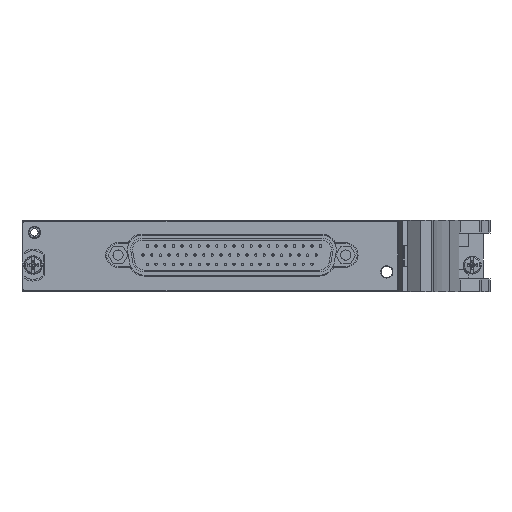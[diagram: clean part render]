
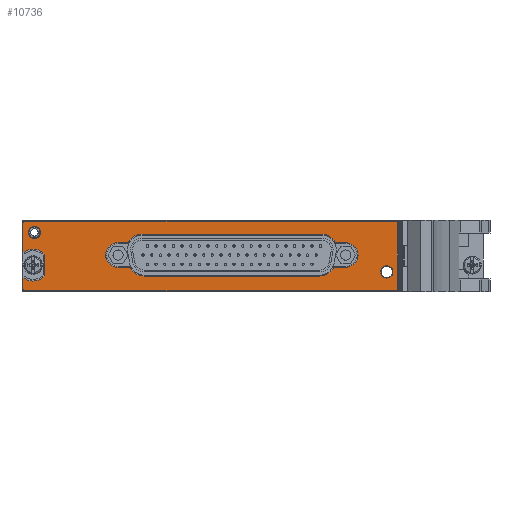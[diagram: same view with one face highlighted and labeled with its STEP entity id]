
A CAD part, left-side view. The second image highlights one B-rep face of the part: STEP entity #10736.
In plain terms, the highlighted planar face has unit normal (-1, 0, 0).
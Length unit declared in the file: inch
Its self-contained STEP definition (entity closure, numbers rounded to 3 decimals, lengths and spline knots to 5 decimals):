
#1011=CARTESIAN_POINT('',(-4.289,0.535,0.66287));
#1012=DIRECTION('',(-1.,0.,0.));
#1013=DIRECTION('',(0.,0.,1.));
#1014=AXIS2_PLACEMENT_3D('',#1011,#1012,#1013);
#1016=DIRECTION('',(0.,1.,0.));
#1017=VECTOR('',#1016,4.07);
#1018=CARTESIAN_POINT('',(-4.289,-3.535,0.68287));
#1019=LINE('',#1018,#1017);
#1020=CARTESIAN_POINT('',(-4.289,-3.535,0.66287));
#1021=DIRECTION('',(-1.,0.,0.));
#1022=DIRECTION('',(0.,-1.,0.));
#1023=AXIS2_PLACEMENT_3D('',#1020,#1021,#1022);
#1025=DIRECTION('',(0.,0.,1.));
#1026=VECTOR('',#1025,0.728);
#1027=CARTESIAN_POINT('',(-4.289,-3.555,-0.06513));
#1028=LINE('',#1027,#1026);
#1029=CARTESIAN_POINT('',(-4.289,-3.535,-0.06513));
#1030=DIRECTION('',(-1.,0.,0.));
#1031=DIRECTION('',(0.,0.,-1.));
#1032=AXIS2_PLACEMENT_3D('',#1029,#1030,#1031);
#1034=DIRECTION('',(0.,-1.,0.));
#1035=VECTOR('',#1034,4.07);
#1036=CARTESIAN_POINT('',(-4.289,0.535,-0.08513));
#1037=LINE('',#1036,#1035);
#1038=CARTESIAN_POINT('',(-4.289,0.535,-0.06513));
#1039=DIRECTION('',(-1.,0.,0.));
#1040=DIRECTION('',(0.,1.,0.));
#1041=AXIS2_PLACEMENT_3D('',#1038,#1039,#1040);
#1043=DIRECTION('',(0.,0.,-1.));
#1044=VECTOR('',#1043,0.12953);
#1045=CARTESIAN_POINT('',(-4.289,0.555,0.06441));
#1046=LINE('',#1045,#1044);
#1047=CARTESIAN_POINT('',(-4.289,0.443,0.19887));
#1048=DIRECTION('',(1.,0.,0.));
#1049=DIRECTION('',(0.,-0.737,-0.676));
#1050=AXIS2_PLACEMENT_3D('',#1047,#1048,#1049);
#1052=DIRECTION('',(0.,0.,-1.));
#1053=VECTOR('',#1052,0.23651);
#1054=CARTESIAN_POINT('',(-4.289,0.314,0.31713));
#1055=LINE('',#1054,#1053);
#1056=CARTESIAN_POINT('',(-4.289,0.443,0.19887));
#1057=DIRECTION('',(1.,0.,0.));
#1058=DIRECTION('',(0.,0.64,0.768));
#1059=AXIS2_PLACEMENT_3D('',#1056,#1057,#1058);
#1061=DIRECTION('',(0.,0.,-1.));
#1062=VECTOR('',#1061,0.32953);
#1063=CARTESIAN_POINT('',(-4.289,0.555,0.66287));
#1064=LINE('',#1063,#1062);
#1065=CARTESIAN_POINT('',(-4.289,0.42873,0.55787));
#1066=DIRECTION('',(-1.,0.,0.));
#1067=DIRECTION('',(0.,0.,1.));
#1068=AXIS2_PLACEMENT_3D('',#1065,#1066,#1067);
#1070=CARTESIAN_POINT('',(-4.289,0.42873,0.55787));
#1071=DIRECTION('',(-1.,0.,0.));
#1072=DIRECTION('',(0.,0.,-1.));
#1073=AXIS2_PLACEMENT_3D('',#1070,#1071,#1072);
#1075=CARTESIAN_POINT('',(-4.289,-3.44027,0.12387));
#1076=DIRECTION('',(-1.,0.,0.));
#1077=DIRECTION('',(0.,0.,1.));
#1078=AXIS2_PLACEMENT_3D('',#1075,#1076,#1077);
#1080=CARTESIAN_POINT('',(-4.289,-3.44027,0.12387));
#1081=DIRECTION('',(-1.,0.,0.));
#1082=DIRECTION('',(0.,0.,-1.));
#1083=AXIS2_PLACEMENT_3D('',#1080,#1081,#1082);
#1085=CARTESIAN_POINT('',(-4.289,-0.7535,0.369));
#1086=DIRECTION('',(-1.,0.,0.));
#1087=DIRECTION('',(0.,0.,1.));
#1088=AXIS2_PLACEMENT_3D('',#1085,#1086,#1087);
#1090=DIRECTION('',(0.,1.,0.));
#1091=VECTOR('',#1090,0.11144);
#1092=CARTESIAN_POINT('',(-4.289,-0.60094,0.444));
#1093=LINE('',#1092,#1091);
#1094=CARTESIAN_POINT('',(-4.289,-0.4895,0.309));
#1095=DIRECTION('',(-1.,0.,0.));
#1096=DIRECTION('',(0.,0.,1.));
#1097=AXIS2_PLACEMENT_3D('',#1094,#1095,#1096);
#1099=DIRECTION('',(0.,-1.,0.));
#1100=VECTOR('',#1099,0.1326);
#1101=CARTESIAN_POINT('',(-4.289,-0.4895,0.174));
#1102=LINE('',#1101,#1100);
#1103=CARTESIAN_POINT('',(-4.289,-0.77466,0.249));
#1104=DIRECTION('',(-1.,0.,0.));
#1105=DIRECTION('',(0.,0.897,-0.441));
#1106=AXIS2_PLACEMENT_3D('',#1103,#1104,#1105);
#1108=DIRECTION('',(0.,-1.,0.));
#1109=VECTOR('',#1108,1.92968);
#1110=CARTESIAN_POINT('',(-4.289,-0.77466,0.079));
#1111=LINE('',#1110,#1109);
#1112=CARTESIAN_POINT('',(-4.289,-2.70434,0.249));
#1113=DIRECTION('',(-1.,0.,0.));
#1114=DIRECTION('',(0.,0.,-1.));
#1115=AXIS2_PLACEMENT_3D('',#1112,#1113,#1114);
#1117=DIRECTION('',(0.,-1.,0.));
#1118=VECTOR('',#1117,0.1326);
#1119=CARTESIAN_POINT('',(-4.289,-2.8569,0.174));
#1120=LINE('',#1119,#1118);
#1121=CARTESIAN_POINT('',(-4.289,-2.9895,0.309));
#1122=DIRECTION('',(-1.,0.,0.));
#1123=DIRECTION('',(0.,0.,-1.));
#1124=AXIS2_PLACEMENT_3D('',#1121,#1122,#1123);
#1126=DIRECTION('',(0.,1.,0.));
#1127=VECTOR('',#1126,0.11144);
#1128=CARTESIAN_POINT('',(-4.289,-2.9895,0.444));
#1129=LINE('',#1128,#1127);
#1130=CARTESIAN_POINT('',(-4.289,-2.7255,0.369));
#1131=DIRECTION('',(-1.,0.,0.));
#1132=DIRECTION('',(0.,-0.897,0.441));
#1133=AXIS2_PLACEMENT_3D('',#1130,#1131,#1132);
#1135=DIRECTION('',(0.,1.,0.));
#1136=VECTOR('',#1135,1.972);
#1137=CARTESIAN_POINT('',(-4.289,-2.7255,0.539));
#1138=LINE('',#1137,#1136);
#8209=CARTESIAN_POINT('',(-4.289,0.535,0.68287));
#8210=CARTESIAN_POINT('',(-4.289,0.555,0.66287));
#8211=VERTEX_POINT('',#8209);
#8212=VERTEX_POINT('',#8210);
#8213=CARTESIAN_POINT('',(-4.289,0.555,0.33334));
#8214=VERTEX_POINT('',#8213);
#8215=CARTESIAN_POINT('',(-4.289,0.314,0.31713));
#8216=VERTEX_POINT('',#8215);
#8217=CARTESIAN_POINT('',(-4.289,0.314,0.08062));
#8218=VERTEX_POINT('',#8217);
#8219=CARTESIAN_POINT('',(-4.289,0.555,0.06441));
#8220=VERTEX_POINT('',#8219);
#8221=CARTESIAN_POINT('',(-4.289,0.555,-0.06513));
#8222=VERTEX_POINT('',#8221);
#8223=CARTESIAN_POINT('',(-4.289,0.535,-0.08513));
#8224=VERTEX_POINT('',#8223);
#8225=CARTESIAN_POINT('',(-4.289,-3.535,-0.08513));
#8226=VERTEX_POINT('',#8225);
#8227=CARTESIAN_POINT('',(-4.289,-3.555,-0.06513));
#8228=VERTEX_POINT('',#8227);
#8229=CARTESIAN_POINT('',(-4.289,-3.555,0.66287));
#8230=VERTEX_POINT('',#8229);
#8231=CARTESIAN_POINT('',(-4.289,-3.535,0.68287));
#8232=VERTEX_POINT('',#8231);
#8233=CARTESIAN_POINT('',(-4.289,0.42873,0.62537));
#8234=CARTESIAN_POINT('',(-4.289,0.42873,0.49037));
#8235=VERTEX_POINT('',#8233);
#8236=VERTEX_POINT('',#8234);
#8237=CARTESIAN_POINT('',(-4.289,-3.44027,0.19137));
#8238=CARTESIAN_POINT('',(-4.289,-3.44027,0.05637));
#8239=VERTEX_POINT('',#8237);
#8240=VERTEX_POINT('',#8238);
#8241=CARTESIAN_POINT('',(-4.289,-0.7535,0.539));
#8242=CARTESIAN_POINT('',(-4.289,-0.60094,0.444));
#8243=VERTEX_POINT('',#8241);
#8244=VERTEX_POINT('',#8242);
#8245=CARTESIAN_POINT('',(-4.289,-0.4895,0.444));
#8246=VERTEX_POINT('',#8245);
#8247=CARTESIAN_POINT('',(-4.289,-0.4895,0.174));
#8248=VERTEX_POINT('',#8247);
#8249=CARTESIAN_POINT('',(-4.289,-0.6221,0.174));
#8250=VERTEX_POINT('',#8249);
#8251=CARTESIAN_POINT('',(-4.289,-0.77466,0.079));
#8252=VERTEX_POINT('',#8251);
#8253=CARTESIAN_POINT('',(-4.289,-2.70434,0.079));
#8254=VERTEX_POINT('',#8253);
#8255=CARTESIAN_POINT('',(-4.289,-2.8569,0.174));
#8256=VERTEX_POINT('',#8255);
#8257=CARTESIAN_POINT('',(-4.289,-2.9895,0.174));
#8258=VERTEX_POINT('',#8257);
#8259=CARTESIAN_POINT('',(-4.289,-2.9895,0.444));
#8260=VERTEX_POINT('',#8259);
#8261=CARTESIAN_POINT('',(-4.289,-2.87806,0.444));
#8262=VERTEX_POINT('',#8261);
#8263=CARTESIAN_POINT('',(-4.289,-2.7255,0.539));
#8264=VERTEX_POINT('',#8263);
#10679=CARTESIAN_POINT('',(-4.289,0.443,0.19887));
#10680=DIRECTION('',(-1.,0.,0.));
#10681=DIRECTION('',(0.,0.,1.));
#10682=AXIS2_PLACEMENT_3D('',#10679,#10680,#10681);
#10683=PLANE('',#10682);
#10685=ORIENTED_EDGE('',*,*,#10684,.F.);
#10687=ORIENTED_EDGE('',*,*,#10686,.F.);
#10689=ORIENTED_EDGE('',*,*,#10688,.F.);
#10691=ORIENTED_EDGE('',*,*,#10690,.F.);
#10693=ORIENTED_EDGE('',*,*,#10692,.F.);
#10695=ORIENTED_EDGE('',*,*,#10694,.F.);
#10697=ORIENTED_EDGE('',*,*,#10696,.F.);
#10699=ORIENTED_EDGE('',*,*,#10698,.F.);
#10701=ORIENTED_EDGE('',*,*,#10700,.F.);
#10703=ORIENTED_EDGE('',*,*,#10702,.F.);
#10705=ORIENTED_EDGE('',*,*,#10704,.F.);
#10707=ORIENTED_EDGE('',*,*,#10706,.F.);
#10708=EDGE_LOOP('',(#10685,#10687,#10689,#10691,#10693,#10695,#10697,#10699,
#10701,#10703,#10705,#10707));
#10709=FACE_OUTER_BOUND('',#10708,.F.);
#10711=ORIENTED_EDGE('',*,*,#10710,.T.);
#10713=ORIENTED_EDGE('',*,*,#10712,.T.);
#10714=EDGE_LOOP('',(#10711,#10713));
#10715=FACE_BOUND('',#10714,.F.);
#10717=ORIENTED_EDGE('',*,*,#10716,.T.);
#10719=ORIENTED_EDGE('',*,*,#10718,.T.);
#10720=EDGE_LOOP('',(#10717,#10719));
#10721=FACE_BOUND('',#10720,.F.);
#10722=ORIENTED_EDGE('',*,*,#10519,.T.);
#10723=ORIENTED_EDGE('',*,*,#10534,.T.);
#10724=ORIENTED_EDGE('',*,*,#10548,.T.);
#10725=ORIENTED_EDGE('',*,*,#10562,.T.);
#10726=ORIENTED_EDGE('',*,*,#10576,.T.);
#10727=ORIENTED_EDGE('',*,*,#10590,.T.);
#10728=ORIENTED_EDGE('',*,*,#10604,.T.);
#10729=ORIENTED_EDGE('',*,*,#10618,.T.);
#10730=ORIENTED_EDGE('',*,*,#10632,.T.);
#10731=ORIENTED_EDGE('',*,*,#10646,.T.);
#10732=ORIENTED_EDGE('',*,*,#10660,.T.);
#10733=ORIENTED_EDGE('',*,*,#10673,.T.);
#10734=EDGE_LOOP('',(#10722,#10723,#10724,#10725,#10726,#10727,#10728,#10729,
#10730,#10731,#10732,#10733));
#10735=FACE_BOUND('',#10734,.F.);
#10736=ADVANCED_FACE('',(#10709,#10715,#10721,#10735),#10683,.T.);
#1015=CIRCLE('',#1014,0.02);
#1024=CIRCLE('',#1023,0.02);
#1033=CIRCLE('',#1032,0.02);
#1042=CIRCLE('',#1041,0.02);
#1051=CIRCLE('',#1050,0.175);
#1060=CIRCLE('',#1059,0.175);
#1069=CIRCLE('',#1068,0.0675);
#1074=CIRCLE('',#1073,0.0675);
#1079=CIRCLE('',#1078,0.0675);
#1084=CIRCLE('',#1083,0.0675);
#1089=CIRCLE('',#1088,0.17);
#1098=CIRCLE('',#1097,0.135);
#1107=CIRCLE('',#1106,0.17);
#1116=CIRCLE('',#1115,0.17);
#1125=CIRCLE('',#1124,0.135);
#1134=CIRCLE('',#1133,0.17);
#10519=EDGE_CURVE('',#8243,#8244,#1089,.T.);
#10534=EDGE_CURVE('',#8244,#8246,#1093,.T.);
#10548=EDGE_CURVE('',#8246,#8248,#1098,.T.);
#10562=EDGE_CURVE('',#8248,#8250,#1102,.T.);
#10576=EDGE_CURVE('',#8250,#8252,#1107,.T.);
#10590=EDGE_CURVE('',#8252,#8254,#1111,.T.);
#10604=EDGE_CURVE('',#8254,#8256,#1116,.T.);
#10618=EDGE_CURVE('',#8256,#8258,#1120,.T.);
#10632=EDGE_CURVE('',#8258,#8260,#1125,.T.);
#10646=EDGE_CURVE('',#8260,#8262,#1129,.T.);
#10660=EDGE_CURVE('',#8262,#8264,#1134,.T.);
#10673=EDGE_CURVE('',#8264,#8243,#1138,.T.);
#10684=EDGE_CURVE('',#8211,#8212,#1015,.T.);
#10686=EDGE_CURVE('',#8232,#8211,#1019,.T.);
#10688=EDGE_CURVE('',#8230,#8232,#1024,.T.);
#10690=EDGE_CURVE('',#8228,#8230,#1028,.T.);
#10692=EDGE_CURVE('',#8226,#8228,#1033,.T.);
#10694=EDGE_CURVE('',#8224,#8226,#1037,.T.);
#10696=EDGE_CURVE('',#8222,#8224,#1042,.T.);
#10698=EDGE_CURVE('',#8220,#8222,#1046,.T.);
#10700=EDGE_CURVE('',#8218,#8220,#1051,.T.);
#10702=EDGE_CURVE('',#8216,#8218,#1055,.T.);
#10704=EDGE_CURVE('',#8214,#8216,#1060,.T.);
#10706=EDGE_CURVE('',#8212,#8214,#1064,.T.);
#10710=EDGE_CURVE('',#8235,#8236,#1069,.T.);
#10712=EDGE_CURVE('',#8236,#8235,#1074,.T.);
#10716=EDGE_CURVE('',#8239,#8240,#1079,.T.);
#10718=EDGE_CURVE('',#8240,#8239,#1084,.T.);
